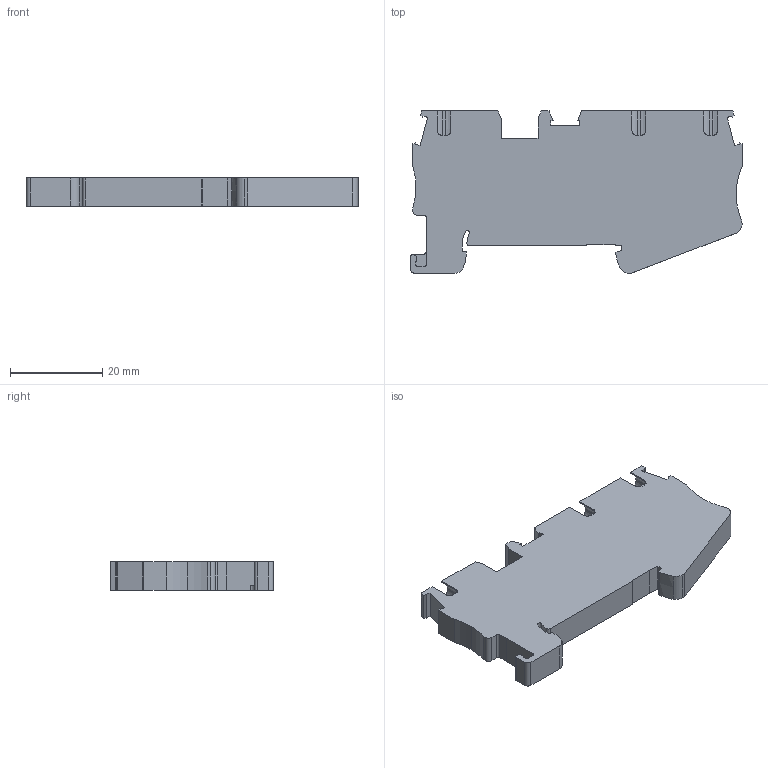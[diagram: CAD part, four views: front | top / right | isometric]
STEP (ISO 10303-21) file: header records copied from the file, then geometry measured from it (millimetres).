
FILE_DESCRIPTION(('TFLEX Exchange Step'),'2;1');
FILE_NAME('10000090_КНЗ_4-3.stp', '2024-06-03T15:45:56+03:00',('apanin'),('Unknown organisation'),'TFLEX Exchange 2023.2','T-FLEX CAD','Unknown authorisation');
FILE_SCHEMA( ('AUTOMOTIVE_DESIGN { 1 0 10303 214 1 1 1 1 }') );
Length unit declared in the file: millimetre
Products named in the file (1): Тело_1:1
Bounding box: 72.1 x 35.25 x 6.15 mm (x, y, z)
Volume: 11007.6 mm3; surface area: 7076.7 mm2
Topology: 1 solids, 1 shells, 412 faces, 1251 edges, 852 vertices
Faces by surface type: cylinder 221, plane 182, cone 9
Entity records: 15065 total; most frequent: CARTESIAN_POINT 3447, ORIENTED_EDGE 2502, DIRECTION 2451, EDGE_CURVE 1251, VERTEX_POINT 852, AXIS2_PLACEMENT_3D 845, VECTOR 761, LINE 761
